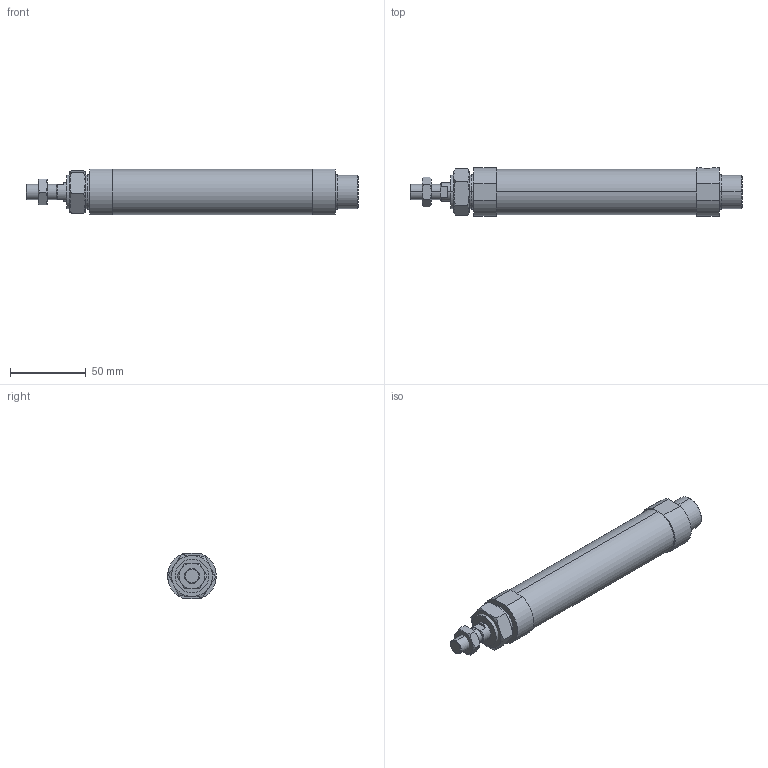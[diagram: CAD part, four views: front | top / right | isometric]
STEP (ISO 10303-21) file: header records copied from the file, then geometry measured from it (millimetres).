
FILE_DESCRIPTION (( 'STEP AP203' ), '1' );
FILE_NAME ('J#1-25-50-N.STEP', '2016-03-08T06:50:06', ( '' ), ( '' ), 'SwSTEP 2.0', 'SolidWorks 2014', '' );
FILE_SCHEMA (( 'CONFIG_CONTROL_DESIGN' ));
Length unit declared in the file: millimetre
Products named in the file (4): J#1-25-50; J#1-25-50-N
Assembly tree (3 placements, depth 2):
  J#1-25-50-N
    J#1-25-50
    (unnamed)
    (unnamed)
Bounding box: 219 x 32 x 30 mm (x, y, z)
Volume: 133699.6 mm3; surface area: 23755.7 mm2
Topology: 3 solids, 3 shells, 93 faces, 204 edges, 121 vertices
Faces by surface type: plane 37, cylinder 24, torus 24, cone 8
Entity records: 3196 total; most frequent: CARTESIAN_POINT 796, DIRECTION 426, ORIENTED_EDGE 404, EDGE_CURVE 202, AXIS2_PLACEMENT_3D 179, VERTEX_POINT 121, EDGE_LOOP 103, FACE_OUTER_BOUND 93
